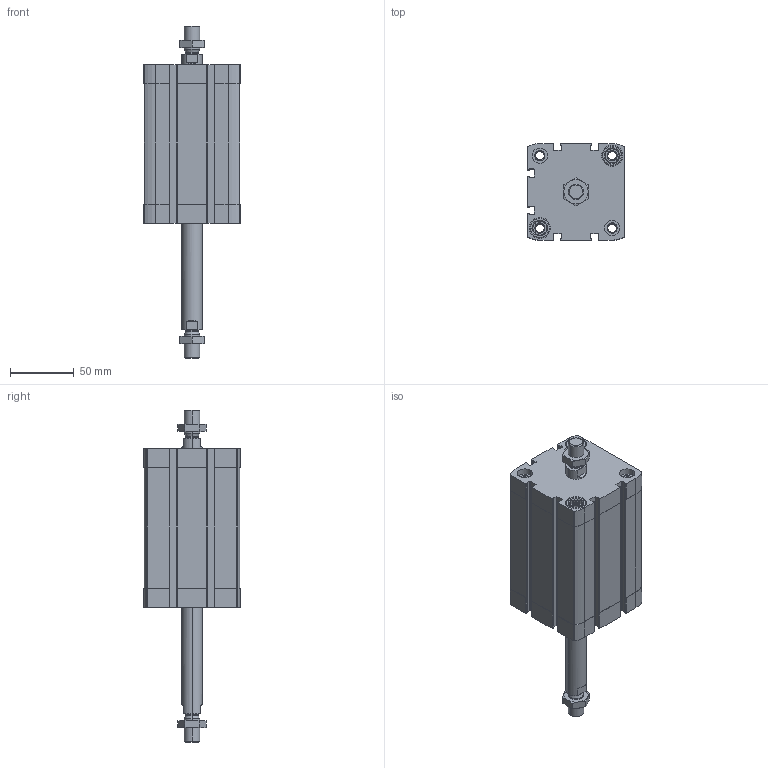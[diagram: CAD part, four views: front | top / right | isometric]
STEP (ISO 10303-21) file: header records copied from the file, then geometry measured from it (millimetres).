
FILE_DESCRIPTION (( 'STEP AP203' ), '1' );
FILE_NAME ('CCN63-75-P.STEP', '2020-06-22T19:03:21', ( '' ), ( '' ), 'SwSTEP 2.0', 'SolidWorks 2019', '' );
FILE_SCHEMA (( 'CONFIG_CONTROL_DESIGN' ));
Length unit declared in the file: millimetre
Products named in the file (1): CCN63-75-P
Bounding box: 75.5 x 75.5 x 259.4 mm (x, y, z)
Volume: 455892.8 mm3; surface area: 118888 mm2
Topology: 4 solids, 4 shells, 528 faces, 1392 edges, 904 vertices
Faces by surface type: plane 240, cylinder 220, cone 60, torus 8
Entity records: 17219 total; most frequent: CARTESIAN_POINT 3821, DIRECTION 2842, ORIENTED_EDGE 2784, EDGE_CURVE 1392, AXIS2_PLACEMENT_3D 1045, VERTEX_POINT 904, VECTOR 752, LINE 752
